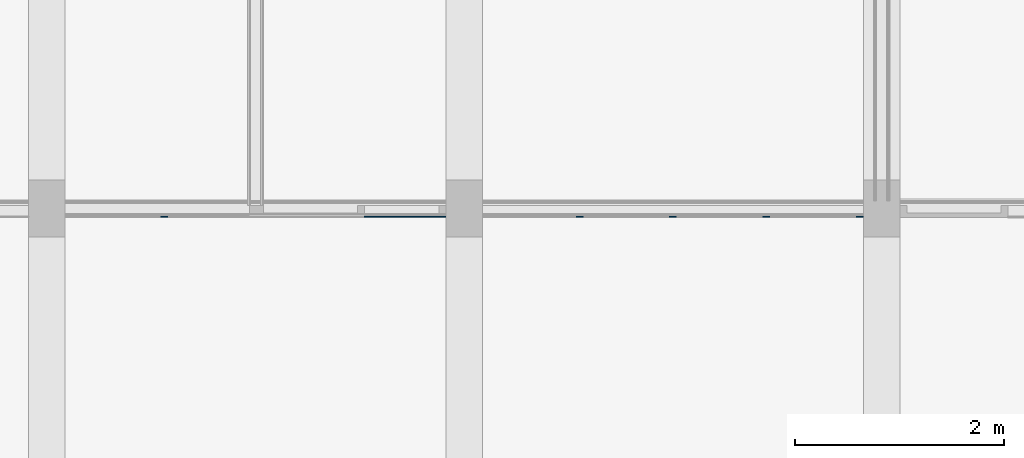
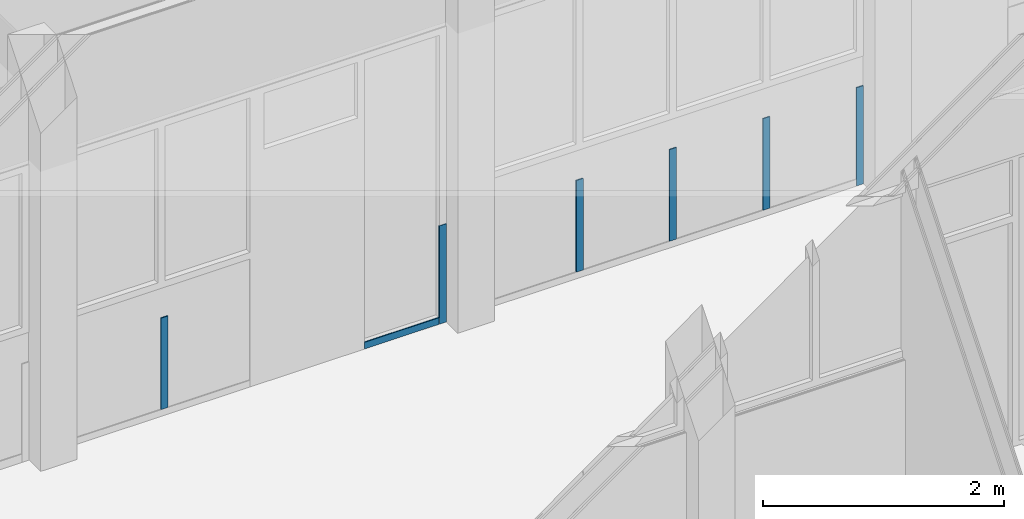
# One storey, part 31 of 94: 8 walls.
"""IFC2X3 building model written with IfcOpenShell, lengths in millimetres."""

from ifc_helpers import new_model, entity, si_unit, converted_unit, derived_unit, money_unit, direction, frame, origin_with_axes, place, context, subcontext, project, spatial, faceted_brep, material, type_object, element, save


model = new_model("IFC2X3")

# Units and contexts
model_context = context("Model", 3, precision=0.01, world=origin_with_axes(), true_north=direction((0.0, 1.0)))
body_context = subcontext(model_context, "Body", "Model", "MODEL_VIEW")
ifc_project = project(units=[si_unit("LENGTHUNIT", "METRE", prefix="MILLI"), si_unit("AREAUNIT", "SQUARE_METRE"), si_unit("VOLUMEUNIT", "CUBIC_METRE"), converted_unit("PLANEANGLEUNIT", "DEGREE", entity("IfcPlaneAngleMeasure", 0.0174532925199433), si_unit("PLANEANGLEUNIT", "RADIAN"), dimensions=[0, 0, 0, 0, 0, 0, 0]), money_unit("EUR"), converted_unit("TIMEUNIT", "Year", entity("IfcTimeMeasure", 31557600.0), si_unit("TIMEUNIT", "SECOND"), dimensions=[0, 0, 1, 0, 0, 0, 0]), si_unit("MASSUNIT", "GRAM", prefix="KILO"), si_unit("THERMODYNAMICTEMPERATUREUNIT", "DEGREE_CELSIUS"), si_unit("LUMINOUSINTENSITYUNIT", "LUMEN"), si_unit("ENERGYUNIT", "JOULE", prefix="MEGA"), derived_unit("THERMALCONDUCTANCEUNIT", [(si_unit("POWERUNIT", "WATT"), 1), (si_unit("LENGTHUNIT", "METRE"), -1), (si_unit("THERMODYNAMICTEMPERATUREUNIT", "KELVIN"), -1)]), derived_unit("SPECIFICHEATCAPACITYUNIT", [(si_unit("ENERGYUNIT", "JOULE"), 1), (si_unit("MASSUNIT", "GRAM", prefix="KILO"), -1), (si_unit("THERMODYNAMICTEMPERATUREUNIT", "KELVIN"), -1)]), derived_unit("MASSDENSITYUNIT", [(si_unit("MASSUNIT", "GRAM", prefix="KILO"), 1), (si_unit("VOLUMEUNIT", "CUBIC_METRE"), -1)])], contexts=[model_context])

# Site, building, storey
site_placement = place(None, origin_with_axes())
site = spatial("IfcSite", under=ifc_project, at=site_placement, Name="<site naam>", CompositionType="ELEMENT")
building_placement = place(site_placement, origin_with_axes())
building = spatial("IfcBuilding", under=site, at=building_placement, Name="<Naam gebouw>", CompositionType="ELEMENT")
storey_placement = place(building_placement, frame((0.0, 0.0, 4250.0), z_axis=(0.0, 0.0, 1.0), x_axis=(1.0, 0.0, 0.0)))
storey = spatial("IfcBuildingStorey", under=building, at=storey_placement, Name="01 1e verdieping", CompositionType="ELEMENT", Elevation=4250.0)

# Walls
ifc_material = material(Name="ALG - BUITENAFWERKING")
wall_type = type_object("IfcWallType", Name="ALG - BUITENAFWERKING 10", PredefinedType="NOTDEFINED")
wall_1_placement = place(storey_placement, frame((33966.46705454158, 11925.00000000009, 70.00000000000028), z_axis=(0.0, 0.0, 1.0), x_axis=(1.0, 0.0, 0.0)))
element("IfcWall", 1, at=wall_1_placement, inside=storey, type_object=wall_type, material=ifc_material, Name="42_Binnenwand_ALG", context=body_context, shape_type="Brep", body=[
    faceted_brep([(0.0, 0.0, 0.0), (67.00000000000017, 0.0, 0.0), (67.00000000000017, -9.999999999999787, 0.0), (0.0, -9.999999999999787, 0.0), (0.0, 0.0, 928.9999999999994), (67.00000000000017, 0.0, 928.9999999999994), (67.00000000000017, -9.999999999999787, 928.9999999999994), (0.0, -9.999999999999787, 928.9999999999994)], [[[0, 1, 2, 3]], [[4, 5, 1, 0]], [[2, 1, 5, 6]], [[3, 2, 6, 7]], [[4, 0, 3, 7]], [[7, 6, 5, 4]]]),
])
wall_2_placement = place(storey_placement, frame((35757.9340062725, 11925.00000000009, 3.000000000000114), z_axis=(0.0, 0.0, 1.0), x_axis=(1.0, 0.0, 0.0)))
element("IfcWall", 2, at=wall_2_placement, inside=storey, type_object=wall_type, material=ifc_material, Name="42_Binnenwand_ALG", context=body_context, shape_type="Brep", body=[
    faceted_brep([(0.0, 0.0, 0.0), (67.00000000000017, 0.0, 0.0), (67.00000000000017, -9.999999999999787, 0.0), (0.0, -9.999999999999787, 0.0), (0.0, 0.0, 995.9999999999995), (67.00000000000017, 0.0, 995.9999999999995), (67.00000000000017, -9.999999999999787, 995.9999999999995), (0.0, -9.999999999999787, 995.9999999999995)], [[[0, 1, 2, 3]], [[4, 5, 1, 0]], [[2, 1, 5, 6]], [[3, 2, 6, 7]], [[4, 0, 3, 7]], [[7, 6, 5, 4]]]),
])
wall_3_placement = place(storey_placement, frame((33138.23352727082, 11925.00000000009, 70.00000000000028), z_axis=(0.0, 0.0, 1.0), x_axis=(-1.0, 0.0, 0.0)))
element("IfcWall", 3, at=wall_3_placement, inside=storey, type_object=wall_type, material=ifc_material, Name="42_Binnenwand_ALG", context=body_context, shape_type="Brep", body=[
    faceted_brep([(0.0, 0.0, 928.9999999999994), (67.00000000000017, 0.0, 928.9999999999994), (67.00000000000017, 9.999999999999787, 928.9999999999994), (0.0, 9.999999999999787, 928.9999999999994), (0.0, 0.0, 0.0), (67.00000000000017, 0.0, 0.0), (67.00000000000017, 9.999999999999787, 0.0), (0.0, 9.999999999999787, 0.0)], [[[0, 1, 2, 3]], [[4, 5, 1, 0]], [[2, 1, 5, 6]], [[3, 2, 6, 7]], [[4, 0, 3, 7]], [[7, 6, 5, 4]]]),
])
for number, where, z_axis, x_axis, name in (
    (4, (33966.46709155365, 11925.00000000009, 70.00000000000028), (0.0, 0.0, 1.0), (1.0, 0.0, 0.0), "42_Binnenwand_ALG"),
    (5, (34861.70069284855, 11925.00000000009, 70.00000000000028), (0.0, 0.0, 1.0), (1.0, 0.0, 0.0), "42_Binnenwand_ALG"),
):
    element("IfcWall", number, at=place(storey_placement, frame(where, z_axis=z_axis, x_axis=x_axis)), inside=storey, type_object=wall_type, material=ifc_material, Name=name, context=body_context, shape_type="Brep", body=[
        faceted_brep([(0.0, 0.0, 0.0), (67.00000000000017, 0.0, 0.0), (67.00000000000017, -9.999999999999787, 0.0), (0.0, -9.999999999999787, 0.0), (0.0, 0.0, 928.9999999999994), (67.00000000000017, 0.0, 928.9999999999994), (67.00000000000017, -9.999999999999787, 928.9999999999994), (0.0, -9.999999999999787, 928.9999999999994)], [[[0, 1, 2, 3]], [[4, 5, 1, 0]], [[2, 1, 5, 6]], [[3, 2, 6, 7]], [[4, 0, 3, 7]], [[7, 6, 5, 4]]]),
    ])
wall_4_placement = place(storey_placement, frame((31757.9340062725, 11925.00000000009, 3.000000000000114), z_axis=(0.0, 0.0, 1.0), x_axis=(1.0, 0.0, 0.0)))
element("IfcWall", 6, at=wall_4_placement, inside=storey, type_object=wall_type, material=ifc_material, Name="42_Binnenwand_ALG", context=body_context, shape_type="Brep", body=[
    faceted_brep([(0.0, 0.0, 0.0), (67.00000000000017, 0.0, 0.0), (67.00000000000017, -9.999999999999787, 0.0), (0.0, -9.999999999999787, 0.0), (0.0, 0.0, 995.9999999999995), (67.00000000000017, 0.0, 995.9999999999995), (67.00000000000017, -9.999999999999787, 995.9999999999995), (0.0, -9.999999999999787, 995.9999999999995)], [[[0, 1, 2, 3]], [[4, 5, 1, 0]], [[2, 1, 5, 6]], [[3, 2, 6, 7]], [[4, 0, 3, 7]], [[7, 6, 5, 4]]]),
])
wall_5_placement = place(storey_placement, frame((31042.26997527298, 11925.0000000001, 3.000000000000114), z_axis=(0.0, 0.0, 1.0), x_axis=(1.0, 0.0, 0.0)))
element("IfcWall", 7, at=wall_5_placement, inside=storey, type_object=wall_type, material=ifc_material, Name="42_Binnenwand_ALG", context=body_context, shape_type="Brep", body=[
    faceted_brep([(0.0, 0.0, 0.0), (714.7299877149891, 0.0, 0.0), (714.7299877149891, -9.99999999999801, 0.0), (0.0, -9.999999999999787, 0.0), (0.0, 0.0, 67.00000000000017), (714.7299877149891, 0.0, 67.00000000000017), (714.7299877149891, -9.99999999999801, 67.00000000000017), (0.0, -9.999999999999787, 67.00000000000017)], [[[0, 1, 2, 3]], [[4, 5, 1, 0]], [[2, 1, 5, 6]], [[3, 2, 6, 7]], [[4, 0, 3, 7]], [[7, 6, 5, 4]]]),
])
wall_6_placement = place(storey_placement, frame((29157.28211549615, 11925.00000000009, 70.00000000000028), z_axis=(0.0, 0.0, 1.0), x_axis=(-1.0, 0.0, 0.0)))
element("IfcWall", 8, at=wall_6_placement, inside=storey, type_object=wall_type, material=ifc_material, Name="42_Binnenwand_ALG", context=body_context, shape_type="Brep", body=[
    faceted_brep([(0.0, 0.0, 928.9999999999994), (67.00000000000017, 0.0, 928.9999999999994), (67.00000000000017, 9.999999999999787, 928.9999999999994), (0.0, 9.999999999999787, 928.9999999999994), (0.0, 0.0, 0.0), (67.00000000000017, 0.0, 0.0), (67.00000000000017, 9.999999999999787, 0.0), (0.0, 9.999999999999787, 0.0)], [[[0, 1, 2, 3]], [[4, 5, 1, 0]], [[2, 1, 5, 6]], [[3, 2, 6, 7]], [[4, 0, 3, 7]], [[7, 6, 5, 4]]]),
])

save(model, "model.ifc")
